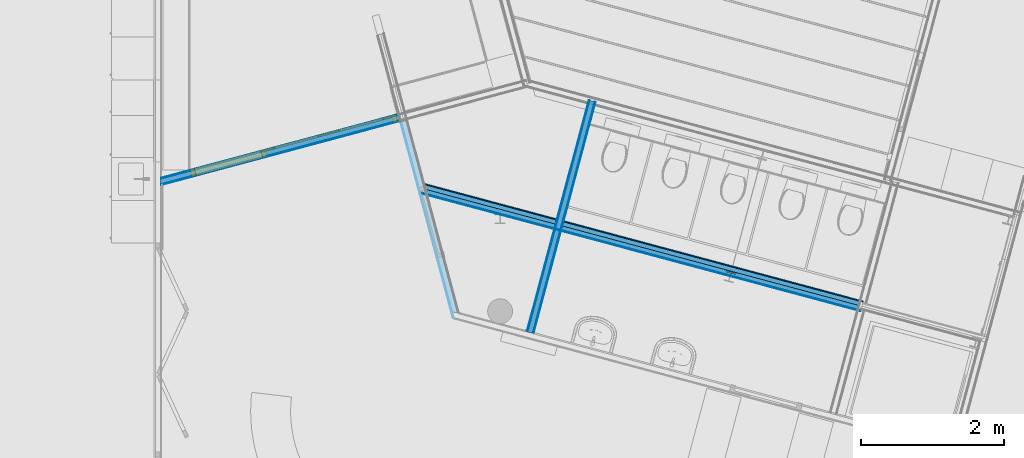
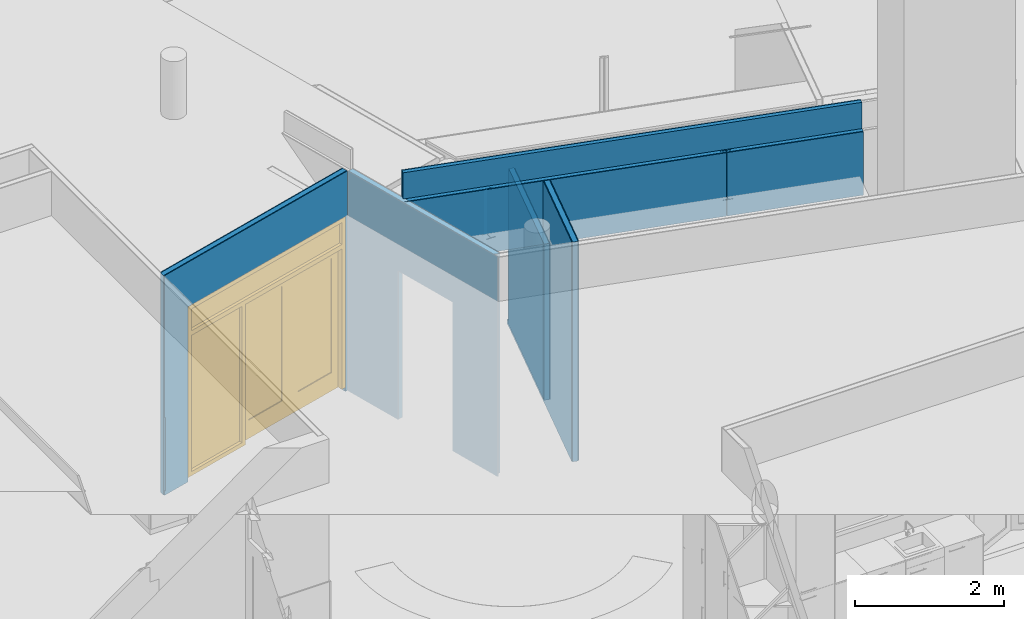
# One storey, part 53 of 167: 12 building element parts, 1 door, 2 openings, 5 elements without a shape of their own, plus 2 elements that do not belong to this part.
"""IFC2X3 building model written with IfcOpenShell, lengths in millimetres."""

from ifc_helpers import new_model, entity, si_unit, converted_unit, derived_unit, money_unit, direction, frame, origin_with_axes, place, context, subcontext, project, spatial, open_shell, faceted_brep, surface_model, material, type_object, element, fill, aggregate, save


model = new_model("IFC2X3")

# Units and contexts
model_context = context("Model", 3, precision=0.01, world=origin_with_axes(), true_north=direction((0.0, 1.0)))
plan_context = context("Plan", 3, precision=0.01, world=origin_with_axes(), true_north=direction((0.0, 1.0)))
body_context = subcontext(model_context, "Body", "Model", "MODEL_VIEW")
ifc_project = project(units=[si_unit("LENGTHUNIT", "METRE", prefix="MILLI"), si_unit("AREAUNIT", "SQUARE_METRE"), si_unit("VOLUMEUNIT", "CUBIC_METRE"), converted_unit("PLANEANGLEUNIT", "DEGREE", entity("IfcPlaneAngleMeasure", 0.0174532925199), si_unit("PLANEANGLEUNIT", "RADIAN"), dimensions=[0, 0, 0, 0, 0, 0, 0]), si_unit("SOLIDANGLEUNIT", "STERADIAN"), money_unit("EUR"), converted_unit("TIMEUNIT", "Year", entity("IfcTimeMeasure", 31556926.0), si_unit("TIMEUNIT", "SECOND"), dimensions=[0, 0, 1, 0, 0, 0, 0]), si_unit("MASSUNIT", "GRAM", prefix="KILO"), si_unit("THERMODYNAMICTEMPERATUREUNIT", "DEGREE_CELSIUS"), si_unit("LUMINOUSINTENSITYUNIT", "LUMEN"), si_unit("ENERGYUNIT", "JOULE", prefix="MEGA"), derived_unit("THERMALCONDUCTANCEUNIT", [(si_unit("POWERUNIT", "WATT"), 1), (si_unit("LENGTHUNIT", "METRE"), -1), (si_unit("THERMODYNAMICTEMPERATUREUNIT", "KELVIN"), -1)]), derived_unit("SPECIFICHEATCAPACITYUNIT", [(si_unit("ENERGYUNIT", "JOULE"), 1), (si_unit("MASSUNIT", "GRAM", prefix="KILO"), -1), (si_unit("THERMODYNAMICTEMPERATUREUNIT", "KELVIN"), -1)]), derived_unit("MASSDENSITYUNIT", [(si_unit("MASSUNIT", "GRAM", prefix="KILO"), 1), (si_unit("VOLUMEUNIT", "CUBIC_METRE"), -1)])], contexts=[model_context, plan_context])

# Site, building, storey
site_placement = place(None, origin_with_axes())
site = spatial("IfcSite", under=ifc_project, at=site_placement, Name="Site", CompositionType="ELEMENT")
building_placement = place(site_placement, origin_with_axes())
building = spatial("IfcBuilding", under=site, at=building_placement, Name="Naam gebouw", CompositionType="ELEMENT")
storey_placement = place(building_placement, origin_with_axes())
storey = spatial("IfcBuildingStorey", under=building, at=storey_placement, Name="Begane grond", CompositionType="ELEMENT", Elevation=0.0)

# Door
door_style = type_object("IfcDoorStyle", Name="D2 bl zl1 24", ConstructionType="NOTDEFINED", OperationType="USERDEFINED", ParameterTakesPrecedence=False, Sizeable=False)
wall_5_placement = place(storey_placement, frame((12987.0474245, 16028.7584647, -100.0), z_axis=(0.0, 0.0, 1.0), x_axis=(-0.965925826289, -0.258819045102, 0.0)))
opening_2_placement = place(wall_5_placement, frame((1531.50980435, 0.0, 100.0), z_axis=(0.0, 0.0, 1.0), x_axis=(1.0, 0.0, 0.0)))
door_placement = place(opening_2_placement, frame((1497.56076019, 0.0, 0.0), z_axis=(0.0, 0.0, 1.0), x_axis=(-1.0, 0.0, 0.0)))
door = element("IfcDoor", 1, at=door_placement, inside=storey, type_object=door_style, Name="32_Deur_Hi-19", ObjectType="DOOR", OverallHeight=2800.0, OverallWidth=2995.12, context=body_context, shape_type="SurfaceModel", body=[
    faceted_brep([(0.0, 64.0, 0.0), (67.0, 64.0, 0.0), (67.0, -50.0, 0.0), (0.0, -50.0, 0.0), (0.0, 64.0, 2733.0), (67.0, 64.0, 2733.0), (67.0, 64.0, 2375.0), (67.0, 64.0, 2300.0), (67.0, 64.0, 67.0), (67.0, -50.0, 67.0), (67.0, -50.0, 2300.0), (67.0, -50.0, 2375.0), (67.0, -50.0, 2733.0), (0.0, -50.0, 2733.0)], [[[0, 1, 2, 3]], [[0, 4, 5, 6, 7, 8, 1]], [[1, 8, 9, 2]], [[3, 2, 9, 10, 11, 12, 13]], [[4, 0, 3, 13]], [[5, 4, 13, 12]], [[6, 5, 12, 11]], [[7, 6, 11, 10]], [[8, 7, 10, 9]]]),
    faceted_brep([(1097.12152037, 24.0, 0.0), (1097.12152037, 24.0, 2300.0), (1097.12152037, -50.0, 2300.0), (1097.12152037, -50.0, 0.0), (1072.12152037, 24.0, 2300.0), (1072.12152037, 24.0, 0.0), (1072.12152037, 64.0, 2300.0), (1030.12152037, 64.0, 2300.0), (1030.12152037, -50.0, 2300.0), (1030.12152037, -50.0, 0.0), (1030.12152037, -50.0, 67.0), (1030.12152037, 64.0, 0.0), (1072.12152037, 64.0, 0.0), (1030.12152037, 64.0, 67.0)], [[[0, 1, 2, 3]], [[4, 1, 0, 5]], [[4, 6, 7, 8, 2, 1]], [[9, 3, 2, 8, 10]], [[5, 0, 3, 9, 11, 12]], [[6, 4, 5, 12]], [[6, 12, 11, 13, 7]], [[13, 10, 8, 7]], [[11, 9, 10, 13]]]),
    faceted_brep([(67.0, 64.0, 67.0), (67.0, 64.0, 0.0), (67.0, -50.0, 0.0), (67.0, -50.0, 67.0), (1030.12152037, 64.0, 67.0), (1030.12152037, 64.0, 0.0), (1030.12152037, -50.0, 0.0), (1030.12152037, -50.0, 67.0)], [[[0, 1, 2, 3]], [[0, 4, 5, 1]], [[1, 5, 6, 2]], [[3, 2, 6, 7]], [[4, 0, 3, 7]], [[5, 4, 7, 6]]]),
    faceted_brep([(2953.12152037, 64.0, 2325.0), (2928.12152037, 64.0, 2325.0), (2928.12152037, 64.0, 2375.0), (2928.12152037, 64.0, 2733.0), (2995.12152037, 64.0, 2733.0), (2995.12152037, 64.0, 0.0), (2953.12152037, 64.0, 0.0), (2953.12152037, 24.0, 2325.0), (2928.12152037, 24.0, 2325.0), (2928.12152037, 24.0, 0.0), (2928.12152037, -50.0, 0.0), (2928.12152037, -50.0, 2300.0), (2928.12152037, -50.0, 2375.0), (2928.12152037, -50.0, 2733.0), (2995.12152037, -50.0, 2733.0), (2995.12152037, -50.0, 0.0), (2953.12152037, 24.0, 0.0)], [[[0, 1, 2, 3, 4, 5, 6]], [[1, 0, 7, 8]], [[8, 9, 10, 11, 12, 2, 1]], [[2, 12, 13, 3]], [[3, 13, 14, 4]], [[4, 14, 15, 5]], [[16, 6, 5, 15, 10, 9]], [[0, 6, 16, 7]], [[16, 9, 8, 7]], [[12, 11, 10, 15, 14, 13]]]),
    faceted_brep([(0.0, 64.0, 2800.0), (0.0, 64.0, 2733.0), (0.0, -50.0, 2733.0), (0.0, -50.0, 2800.0), (2995.12152037, 64.0, 2800.0), (2995.12152037, 64.0, 2733.0), (2928.12152037, 64.0, 2733.0), (67.0, 64.0, 2733.0), (67.0, -50.0, 2733.0), (2928.12152037, -50.0, 2733.0), (2995.12152037, -50.0, 2733.0), (2995.12152037, -50.0, 2800.0)], [[[0, 1, 2, 3]], [[0, 4, 5, 6, 7, 1]], [[1, 7, 8, 2]], [[3, 2, 8, 9, 10, 11]], [[4, 0, 3, 11]], [[5, 4, 11, 10]], [[6, 5, 10, 9]], [[7, 6, 9, 8]]]),
    faceted_brep([(2928.12152037, 24.0, 2325.0), (2928.12152037, 64.0, 2325.0), (2928.12152037, 64.0, 2375.0), (2928.12152037, -50.0, 2375.0), (2928.12152037, -50.0, 2300.0), (2928.12152037, 24.0, 2300.0), (1072.12152037, 24.0, 2325.0), (1072.12152037, 64.0, 2325.0), (1072.12152037, 64.0, 2300.0), (1030.12152037, 64.0, 2300.0), (67.0, 64.0, 2300.0), (67.0, 64.0, 2375.0), (67.0, -50.0, 2375.0), (1097.12152037, -50.0, 2300.0), (67.0, -50.0, 2300.0), (1030.12152037, -50.0, 2300.0), (1097.12152037, 24.0, 2300.0), (1072.12152037, 24.0, 2300.0)], [[[0, 1, 2, 3, 4, 5]], [[1, 0, 6, 7]], [[7, 8, 9, 10, 11, 2, 1]], [[11, 12, 3, 2]], [[13, 4, 3, 12, 14, 15]], [[16, 5, 4, 13]], [[0, 5, 16, 17, 6]], [[8, 7, 6, 17]], [[17, 16, 13, 15, 9, 8]], [[9, 15, 14, 10]], [[10, 14, 12, 11]]]),
    faceted_brep([(2953.12152037, 64.0, 300.0), (2953.12152037, 24.0, 300.0), (2803.12152037, 24.0, 300.0), (2803.12152037, 64.0, 300.0), (2953.12152037, 64.0, 2175.0), (2953.12152037, 24.0, 2175.0), (2803.12152037, 24.0, 2175.0), (2803.12152037, 64.0, 2175.0)], [[[0, 1, 2, 3]], [[4, 5, 1, 0]], [[1, 5, 6, 2]], [[3, 2, 6, 7]], [[0, 3, 7, 4]], [[7, 6, 5, 4]]]),
    faceted_brep([(2012.62152037, 64.0, 300.0), (2012.62152037, 24.0, 300.0), (2012.62152037, 24.0, 2175.0), (2012.62152037, 64.0, 2175.0), (2162.62152037, 64.0, 300.0), (2162.62152037, 24.0, 300.0), (2162.62152037, 24.0, 2175.0), (2162.62152037, 64.0, 2175.0)], [[[0, 1, 2, 3]], [[4, 5, 1, 0]], [[1, 5, 6, 2]], [[3, 2, 6, 7]], [[0, 3, 7, 4]], [[7, 6, 5, 4]]]),
    faceted_brep([(2953.12152037, 64.0, 0.0), (2953.12152037, 24.0, 0.0), (2012.62152037, 24.0, 0.0), (2012.62152037, 64.0, 0.0), (2953.12152037, 64.0, 300.0), (2953.12152037, 24.0, 300.0), (2803.12152037, 24.0, 300.0), (2162.62152037, 24.0, 300.0), (2012.62152037, 24.0, 300.0), (2012.62152037, 64.0, 300.0), (2162.62152037, 64.0, 300.0), (2803.12152037, 64.0, 300.0)], [[[0, 1, 2, 3]], [[4, 5, 1, 0]], [[1, 5, 6, 7, 8, 2]], [[3, 2, 8, 9]], [[0, 3, 9, 10, 11, 4]], [[11, 6, 5, 4]], [[10, 7, 6, 11]], [[9, 8, 7, 10]]]),
    faceted_brep([(2953.12152037, 64.0, 2325.0), (2953.12152037, 24.0, 2325.0), (2953.12152037, 24.0, 2175.0), (2953.12152037, 64.0, 2175.0), (2012.62152037, 64.0, 2325.0), (2012.62152037, 24.0, 2325.0), (2012.62152037, 24.0, 2175.0), (2162.62152037, 24.0, 2175.0), (2803.12152037, 24.0, 2175.0), (2803.12152037, 64.0, 2175.0), (2162.62152037, 64.0, 2175.0), (2012.62152037, 64.0, 2175.0)], [[[0, 1, 2, 3]], [[4, 5, 1, 0]], [[1, 5, 6, 7, 8, 2]], [[3, 2, 8, 9]], [[0, 3, 9, 10, 11, 4]], [[11, 6, 5, 4]], [[10, 7, 6, 11]], [[9, 8, 7, 10]]]),
    surface_model("IfcShellBasedSurfaceModel", [(2803.12152037, 50.0, 300.0), (2162.62152037, 50.0, 300.0), (2162.62152037, 50.0, 2175.0), (2803.12152037, 50.0, 2175.0)], [open_shell([[[0, 1, 2, 3]]])]),
    surface_model("IfcShellBasedSurfaceModel", [(2803.12152037, 38.0, 300.0), (2803.12152037, 38.0, 2175.0), (2162.62152037, 38.0, 2175.0), (2162.62152037, 38.0, 300.0)], [open_shell([[[0, 1, 2, 3]]])]),
    faceted_brep([(1072.12152037, 64.0, 300.0), (1222.12152037, 64.0, 300.0), (1222.12152037, 24.0, 300.0), (1072.12152037, 24.0, 300.0), (1072.12152037, 64.0, 2175.0), (1222.12152037, 64.0, 2175.0), (1222.12152037, 24.0, 2175.0), (1072.12152037, 24.0, 2175.0)], [[[0, 1, 2, 3]], [[0, 4, 5, 1]], [[1, 5, 6, 2]], [[3, 2, 6, 7]], [[4, 0, 3, 7]], [[5, 4, 7, 6]]]),
    faceted_brep([(2012.62152037, 64.0, 300.0), (2012.62152037, 64.0, 2175.0), (2012.62152037, 24.0, 2175.0), (2012.62152037, 24.0, 300.0), (1862.62152037, 64.0, 300.0), (1862.62152037, 64.0, 2175.0), (1862.62152037, 24.0, 2175.0), (1862.62152037, 24.0, 300.0)], [[[0, 1, 2, 3]], [[0, 4, 5, 1]], [[1, 5, 6, 2]], [[3, 2, 6, 7]], [[4, 0, 3, 7]], [[5, 4, 7, 6]]]),
    faceted_brep([(1072.12152037, 64.0, 0.0), (2012.62152037, 64.0, 0.0), (2012.62152037, 24.0, 0.0), (1072.12152037, 24.0, 0.0), (1072.12152037, 64.0, 300.0), (1222.12152037, 64.0, 300.0), (1862.62152037, 64.0, 300.0), (2012.62152037, 64.0, 300.0), (2012.62152037, 24.0, 300.0), (1862.62152037, 24.0, 300.0), (1222.12152037, 24.0, 300.0), (1072.12152037, 24.0, 300.0)], [[[0, 1, 2, 3]], [[0, 4, 5, 6, 7, 1]], [[1, 7, 8, 2]], [[3, 2, 8, 9, 10, 11]], [[4, 0, 3, 11]], [[5, 4, 11, 10]], [[6, 5, 10, 9]], [[7, 6, 9, 8]]]),
    faceted_brep([(1072.12152037, 64.0, 2325.0), (1072.12152037, 64.0, 2175.0), (1072.12152037, 24.0, 2175.0), (1072.12152037, 24.0, 2325.0), (2012.62152037, 64.0, 2325.0), (2012.62152037, 64.0, 2175.0), (1862.62152037, 64.0, 2175.0), (1222.12152037, 64.0, 2175.0), (1222.12152037, 24.0, 2175.0), (1862.62152037, 24.0, 2175.0), (2012.62152037, 24.0, 2175.0), (2012.62152037, 24.0, 2325.0)], [[[0, 1, 2, 3]], [[0, 4, 5, 6, 7, 1]], [[1, 7, 8, 2]], [[3, 2, 8, 9, 10, 11]], [[4, 0, 3, 11]], [[5, 4, 11, 10]], [[6, 5, 10, 9]], [[7, 6, 9, 8]]]),
    surface_model("IfcShellBasedSurfaceModel", [(1222.12152037, 50.0, 300.0), (1222.12152037, 50.0, 2175.0), (1862.62152037, 50.0, 2175.0), (1862.62152037, 50.0, 300.0)], [open_shell([[[0, 1, 2, 3]]])]),
    surface_model("IfcShellBasedSurfaceModel", [(1222.12152037, 38.0, 300.0), (1862.62152037, 38.0, 300.0), (1862.62152037, 38.0, 2175.0), (1222.12152037, 38.0, 2175.0)], [open_shell([[[0, 1, 2, 3]]])]),
    surface_model("IfcShellBasedSurfaceModel", [(67.0, 10.0, 2375.0), (67.0, 10.0, 2733.0), (2928.12152037, 10.0, 2733.0), (2928.12152037, 10.0, 2375.0)], [open_shell([[[0, 1, 2, 3]]])]),
    surface_model("IfcShellBasedSurfaceModel", [(67.0, -2.0, 2375.0), (2928.12152037, -2.0, 2375.0), (2928.12152037, -2.0, 2733.0), (67.0, -2.0, 2733.0)], [open_shell([[[0, 1, 2, 3]]])]),
    surface_model("IfcShellBasedSurfaceModel", [(67.0, 10.0, 67.0), (67.0, 10.0, 2300.0), (1030.12152037, 10.0, 2300.0), (1030.12152037, 10.0, 67.0)], [open_shell([[[0, 1, 2, 3]]])]),
    surface_model("IfcShellBasedSurfaceModel", [(67.0, -2.0, 67.0), (1030.12152037, -2.0, 67.0), (1030.12152037, -2.0, 2300.0), (67.0, -2.0, 2300.0)], [open_shell([[[0, 1, 2, 3]]])]),
])

# Wall, building element parts
wall_type_1 = type_object("IfcWallType", Name="_TenW_22_Metalstud 150 enkel gipsvezelplaat 150", PredefinedType="NOTDEFINED")
wall_1_placement = place(storey_placement, frame((13317.5373409, 15034.4159025, 2490.0), z_axis=(0.0, 0.0, 1.0), x_axis=(0.965925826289, -0.258819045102, 0.0)))
wall_1 = element("IfcWall", 2, at=wall_1_placement, inside=storey, type_object=wall_type_1, Name="22_Wand_Wand-x")
ifc_material_1 = material(Name="Gipsplaat")
building_element_part_1_placement = place(wall_1_placement, origin_with_axes())
building_element_part_1 = element("IfcBuildingElementPart", 3, at=building_element_part_1_placement, material=ifc_material_1, Name="Gipsplaat", context=body_context, shape_type="Brep", body=[
    faceted_brep([(1103.39862717, 75.0, 0.0), (1103.39862717, 75.0, 71.5), (1173.0209503, 75.0, 71.5), (1173.0209503, 75.0, 80.0), (1028.08228504, 75.0, 80.0), (1028.08228504, 75.0, 71.5), (1097.70460817, 75.0, 71.5), (1097.70460817, 75.0, 0.0), (0.0, 75.0, 0.0), (0.0, 75.0, 140.0), (6376.11574358, 75.0, 140.0), (6376.11574358, 75.0, 0.0), (4480.54357807, 75.0, 0.0), (4480.54357807, 75.0, 71.5), (4547.79357807, 75.0, 71.5), (4547.79357807, 75.0, 80.0), (4407.79357807, 75.0, 80.0), (4407.79357807, 75.0, 71.5), (4475.04357807, 75.0, 71.5), (4475.04357807, 75.0, 0.0), (1106.74799207, 62.5, 71.5), (1106.74799207, 62.5, 0.0), (1176.3703152, 62.5, 71.5), (1176.3703152, 62.5, 80.0), (1031.43164995, 62.5, 80.0), (1031.43164995, 62.5, 71.5), (1101.05397308, 62.5, 71.5), (1101.05397308, 62.5, 0.0), (0.0, 62.5, 0.0), (0.0, 75.0, 390.0), (0.0, 74.8341501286, 390.0), (0.0, 74.8341501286, 140.0), (0.0, 62.5, 1470.0), (0.0, 75.0, 1470.0), (7.11986569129, 62.5, 140.0), (3683.47465741, 62.5, 140.0), (6376.11574358, 70.0916395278, 140.0), (6376.11574358, 70.0916395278, 390.0), (6376.11574358, 75.0, 390.0), (6376.11574358, 75.0, 1470.0), (6376.11574358, 62.5, 1470.0), (6376.11574358, 62.5, 0.0), (4480.54357807, 62.5, 0.0), (4480.54357807, 62.5, 71.5), (4547.79357807, 62.5, 71.5), (4547.79357807, 62.5, 80.0), (4407.79357807, 62.5, 80.0), (4407.79357807, 62.5, 71.5), (4475.04357807, 62.5, 71.5), (4475.04357807, 62.5, 0.0), (3683.47465741, 62.5, 390.0), (7.11986569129, 62.5, 390.0)], [[[0, 1, 2, 3, 4, 5, 6, 7, 8, 9, 10, 11, 12, 13, 14, 15, 16, 17, 18, 19]], [[20, 1, 0, 21]], [[22, 2, 1, 20]], [[23, 3, 2, 22]], [[24, 4, 3, 23]], [[25, 5, 4, 24]], [[26, 6, 5, 25]], [[27, 7, 6, 26]], [[8, 7, 27, 28]], [[29, 30, 31, 9, 8, 28, 32, 33]], [[34, 35, 36, 10, 9, 31]], [[11, 10, 36, 37, 38, 39, 40, 41]], [[41, 42, 12, 11]], [[43, 13, 12, 42]], [[44, 14, 13, 43]], [[45, 15, 14, 44]], [[46, 16, 15, 45]], [[47, 17, 16, 46]], [[48, 18, 17, 47]], [[49, 19, 18, 48]], [[49, 21, 0, 19]], [[22, 20, 21, 49, 48, 47, 46, 45, 44, 43, 42, 41, 40, 32, 28, 27, 26, 25, 24, 23], [50, 35, 34, 51]], [[51, 30, 29, 38, 37, 50]], [[31, 30, 51, 34]], [[39, 33, 32, 40]], [[33, 39, 38, 29]], [[35, 50, 37, 36]]]),
])
ifc_material_2 = material(Name="Isolatie - Glaswol zacht")
building_element_part_2_placement = place(wall_1_placement, origin_with_axes())
building_element_part_2 = element("IfcBuildingElementPart", 4, at=building_element_part_2_placement, material=ifc_material_2, Name="Isolatie - Glaswol zacht", context=body_context, shape_type="Brep", body=[
    faceted_brep([(1208.02886021, -55.6512984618, 1040.0), (1182.46915811, -62.5, 1040.0), (4475.04357807, -62.5, 1040.0), (4475.04357807, -23.5000000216, 1040.0), (4407.79357807, -23.5000000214, 1040.0), (4407.79357807, -15.0000000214, 1040.0), (4547.79357807, -15.0000000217, 1040.0), (4547.79357807, -23.5000000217, 1040.0), (4480.54357807, -23.5000000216, 1040.0), (4480.54357807, -62.5, 1040.0), (6376.11574358, -62.5, 1040.0), (6376.11574358, 6.53699316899e-10, 1040.0), (0.0, 3.38928884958e-09, 1040.0), (0.0, -62.5, 1040.0), (1149.62768001, -62.5, 1040.0), (1205.82889833, -47.4409289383, 1040.0), (1208.02886021, -55.6512984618, 0.0), (1182.46915811, -62.5, 0.0), (4475.04357807, -62.5, 0.0), (4475.04357807, -23.5000000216, 0.0), (4407.79357807, -23.5000000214, 0.0), (4407.79357807, -15.0000000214, 80.0), (4407.79357807, -15.0000000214, 0.0), (4407.79357807, -15.0000000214, 71.5), (4407.79357807, 62.5, 71.5), (4407.79357807, 62.5, 80.0), (4547.79357807, -15.0000000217, 80.0), (4547.79357807, -15.0000000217, 71.5), (4547.79357807, -15.0000000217, 0.0), (4547.79357807, -23.5000000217, 0.0), (4547.79357807, 62.5, 80.0), (4547.79357807, 62.5, 71.5), (4480.54357807, -23.5000000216, 0.0), (4480.54357807, -62.5, 0.0), (6376.11574358, -62.5, 0.0), (6376.11574358, 62.5, 1470.0), (6376.11574358, 6.53699316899e-10, 1470.0), (6376.11574358, 62.5, 0.0), (0.0, 3.38928884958e-09, 1470.0), (0.0, -62.5, 0.0), (0.0, 62.5, 1470.0), (0.0, 62.5, 0.0), (1149.62768001, -62.5, 80.0), (1134.54762213, -62.5, 0.0), (1134.54762213, -62.5, 71.5), (1064.925299, -62.5, 71.5), (1064.925299, -62.5, 80.0), (1205.82889833, -47.4409289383, 80.0), (1205.82889833, -47.4409289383, 71.5), (1205.82889833, -47.4409289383, 0.0), (1176.3703152, 62.5, 80.0), (1176.3703152, 62.5, 71.5), (1149.62768001, -62.5, 0.0), (1140.24164113, -62.5, 0.0), (1106.74799207, 62.5, 0.0), (4475.04357807, 62.5, 0.0), (4475.04357807, -15.0000000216, 0.0), (4475.04357807, -15.0000000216, 71.5), (4475.04357807, 62.5, 71.5), (1106.74799207, 62.5, 71.5), (1031.43164995, 62.5, 80.0), (1031.43164995, 62.5, 71.5), (1101.05397308, 62.5, 71.5), (1101.05397308, 62.5, 0.0), (4480.54357807, 62.5, 0.0), (4480.54357807, 62.5, 71.5), (3683.47465741, 62.5, 390.0), (7.11986569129, 62.5, 390.0), (7.11986569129, 62.5, 140.0), (3683.47465741, 62.5, 140.0), (4480.54357807, -15.0000000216, 71.5), (4480.54357807, -15.0000000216, 0.0), (1149.62768001, -62.5, 71.5), (1140.24164113, -62.5, 71.5), (13.0933930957, 52.1517171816, 390.0), (13.0933930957, 52.1517171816, 140.0)], [[[0, 1, 2, 3, 4, 5, 6, 7, 8, 9, 10, 11, 12, 13, 14, 15]], [[1, 0, 16, 17]], [[1, 17, 18, 2]], [[3, 2, 18, 19]], [[4, 3, 19, 20]], [[21, 5, 4, 20, 22, 23, 24, 25]], [[6, 5, 21, 26]], [[27, 28, 29, 7, 6, 26, 30, 31]], [[8, 7, 29, 32]], [[9, 8, 32, 33]], [[9, 33, 34, 10]], [[35, 36, 11, 10, 34, 37]], [[11, 36, 38, 12]], [[39, 13, 12, 38, 40, 41]], [[42, 14, 13, 39, 43, 44, 45, 46]], [[15, 14, 42, 47]], [[48, 49, 16, 0, 15, 47, 50, 51]], [[49, 52, 53, 54, 55, 56, 22, 20, 19, 18, 17, 16]], [[56, 57, 23, 22]], [[23, 57, 58, 24]], [[54, 59, 51, 50, 60, 61, 62, 63, 41, 40, 35, 37, 64, 65, 31, 30, 25, 24, 58, 55], [66, 67, 68, 69]], [[26, 21, 25, 30]], [[27, 70, 71, 28]], [[28, 71, 64, 37, 34, 33, 32, 29]], [[70, 27, 31, 65]], [[35, 40, 38, 36]], [[41, 63, 43, 39]], [[43, 63, 62, 44]], [[44, 62, 61, 45]], [[45, 61, 60, 46]], [[47, 42, 46, 60, 50]], [[48, 72, 52, 49]], [[72, 48, 51, 59, 73]], [[52, 72, 73, 53]], [[73, 59, 54, 53]], [[57, 56, 55, 58]], [[71, 70, 65, 64]], [[66, 74, 67]], [[74, 75, 68, 67]], [[68, 75, 69]], [[75, 74, 66, 69]]]),
])
building_element_part_3_placement = place(wall_1_placement, origin_with_axes())
building_element_part_3 = element("IfcBuildingElementPart", 5, at=building_element_part_3_placement, material=ifc_material_1, Name="Gipsplaat", context=body_context, shape_type="Brep", body=[
    faceted_brep([(1137.75775635, -74.480383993, 1040.0), (1135.81852301, -75.0, 1040.0), (1137.89698704, -75.0, 1040.0), (1137.75775635, -74.480383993, 0.0), (1135.81852301, -75.0, 0.0), (1137.89698704, -75.0, 0.0)], [[[0, 1, 2]], [[1, 0, 3, 4]], [[5, 2, 1, 4]], [[0, 2, 5, 3]], [[3, 5, 4]]]),
    faceted_brep([(4480.54357807, -62.5, 0.0), (4480.54357807, -62.5, 1040.0), (6376.11574358, -62.5, 1040.0), (6376.11574358, -62.5, 0.0), (4480.54357807, -75.0, 1040.0), (4480.54357807, -75.0, 0.0), (6376.11574358, -75.0, 1040.0), (6376.11574358, -75.0, 0.0)], [[[0, 1, 2, 3]], [[4, 1, 0, 5]], [[1, 4, 6, 2]], [[7, 3, 2, 6]], [[5, 0, 3, 7]], [[4, 5, 7, 6]]]),
    faceted_brep([(1102.97704492, -75.0, 71.5), (1135.55779447, -66.2700144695, 71.5), (1134.54762213, -62.5, 71.5), (1064.925299, -62.5, 71.5), (1068.27466391, -75.0, 71.5), (1135.55779447, -66.2700144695, 0.0), (1102.97704492, -75.0, 0.0), (1134.54762213, -62.5, 0.0), (1149.62768001, -62.5, 1040.0), (1149.62768001, -62.5, 80.0), (1064.925299, -62.5, 80.0), (0.0, -62.5, 0.0), (0.0, -62.5, 1040.0), (1068.27466391, -75.0, 80.0), (1102.97704492, -75.0, 80.0), (1102.97704492, -75.0, 1040.0), (0.0, -75.0, 1040.0), (0.0, -75.0, 0.0)], [[[0, 1, 2, 3, 4]], [[5, 1, 0, 6]], [[1, 5, 7, 2]], [[8, 9, 10, 3, 2, 7, 11, 12]], [[4, 3, 10, 13]], [[14, 15, 16, 17, 6, 0, 4, 13]], [[5, 6, 17, 11, 7]], [[9, 8, 15, 14]], [[9, 14, 13, 10]], [[11, 17, 16, 12]], [[15, 8, 12, 16]]]),
    faceted_brep([(1140.87038651, -64.8465097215, 71.5), (1149.62768001, -62.5, 71.5), (1140.24164113, -62.5, 71.5), (1149.62768001, -62.5, 0.0), (1140.87038651, -64.8465097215, 0.0), (1140.24164113, -62.5, 0.0)], [[[0, 1, 2]], [[3, 1, 0, 4]], [[1, 3, 5, 2]], [[4, 0, 2, 5]], [[3, 4, 5]]]),
    faceted_brep([(1182.46915811, -62.5, 0.0), (1182.46915811, -62.5, 1040.0), (4475.04357807, -62.5, 1040.0), (4475.04357807, -62.5, 0.0), (1143.07034839, -73.0568792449, 1040.0), (1143.07034839, -73.0568792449, 0.0), (1143.59100603, -75.0, 1040.0), (4475.04357807, -75.0, 1040.0), (4475.04357807, -75.0, 0.0), (1143.59100603, -75.0, 0.0)], [[[0, 1, 2, 3]], [[4, 1, 0, 5]], [[4, 6, 7, 2, 1]], [[3, 2, 7, 8]], [[5, 0, 3, 8, 9]], [[6, 4, 5, 9]], [[6, 9, 8, 7]]]),
])
aggregate(wall_1, [building_element_part_1, building_element_part_2, building_element_part_3])

wall_type_2 = type_object("IfcWallType", Name="_TenW_22_Metalstud 100 enkel gipsvezelplaat 100", PredefinedType="NOTDEFINED")
wall_2_placement = place(storey_placement, frame((15692.1975133, 16261.6433867, -100.0), z_axis=(0.0, 0.0, 1.0), x_axis=(-0.258819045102, -0.965925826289, 0.0)))
wall_2 = element("IfcWall", 6, at=wall_2_placement, inside=storey, type_object=wall_type_2, Name="22_Wand_Wand-x")
ifc_material_3 = material(Name="Gipsplaat watervast")
building_element_part_4_placement = place(wall_2_placement, origin_with_axes())
building_element_part_4 = element("IfcBuildingElementPart", 7, at=building_element_part_4_placement, material=ifc_material_3, Name="Gipsplaat watervast", context=body_context, shape_type="Brep", body=[
    faceted_brep([(1875.018, 50.0, 30.0), (0.0, 50.0, 30.0), (0.0, 50.0, 100.0), (50.0, 50.0, 100.0), (50.0, 50.0, 2590.0), (1875.018, 50.0, 2590.0), (0.0, 37.5, 30.0), (1875.018, 37.5, 30.0), (0.0, 37.5, 100.0), (50.0, 37.5, 100.0), (50.0, 37.5, 2590.0), (1875.018, 37.5, 2590.0)], [[[0, 1, 2, 3, 4, 5]], [[6, 1, 0, 7]], [[1, 6, 8, 2]], [[2, 8, 9, 3]], [[9, 10, 4, 3]], [[5, 4, 10, 11]], [[7, 0, 5, 11]], [[6, 7, 11, 10, 9, 8]]]),
])
ifc_material_4 = material(Name="Isolatie - Steenwol zacht")
building_element_part_5_placement = place(wall_2_placement, origin_with_axes())
building_element_part_5 = element("IfcBuildingElementPart", 8, at=building_element_part_5_placement, material=ifc_material_4, Name="Isolatie - Steenwol zacht", context=body_context, shape_type="Brep", body=[
    faceted_brep([(1875.018, 37.5, 30.0), (0.0, 37.5, 30.0), (0.0, 37.5, 100.0), (37.5, 37.5, 100.0), (37.5, 37.5, 2590.0), (1875.018, 37.5, 2590.0), (0.0, -37.5, 30.0), (1875.018, -37.5, 30.0), (0.0, -37.5, 100.0), (37.5, -37.5, 100.0), (37.5, -37.5, 2590.0), (1875.018, -37.5, 2590.0)], [[[0, 1, 2, 3, 4, 5]], [[6, 1, 0, 7]], [[1, 6, 8, 2]], [[9, 3, 2, 8]], [[9, 10, 4, 3]], [[5, 4, 10, 11]], [[7, 0, 5, 11]], [[6, 7, 11, 10, 9, 8]]]),
])
building_element_part_6_placement = place(wall_2_placement, origin_with_axes())
building_element_part_6 = element("IfcBuildingElementPart", 9, at=building_element_part_6_placement, material=ifc_material_3, Name="Gipsplaat watervast", context=body_context, shape_type="Brep", body=[
    faceted_brep([(1875.018, -37.5, 30.0), (0.0, -37.5, 30.0), (0.0, -37.5, 100.0), (50.0, -37.5, 100.0), (50.0, -37.5, 2590.0), (1875.018, -37.5, 2590.0), (0.0, -50.0, 30.0), (1875.018, -50.0, 30.0), (0.0, -50.0, 100.0), (50.0, -50.0, 100.0), (50.0, -50.0, 2590.0), (1875.018, -50.0, 2590.0)], [[[0, 1, 2, 3, 4, 5]], [[6, 1, 0, 7]], [[1, 6, 8, 2]], [[2, 8, 9, 3]], [[9, 10, 4, 3]], [[5, 4, 10, 11]], [[7, 0, 5, 11]], [[6, 7, 11, 10, 9, 8]]]),
])
aggregate(wall_2, [building_element_part_4, building_element_part_5, building_element_part_6])

wall_3_placement = place(storey_placement, frame((15206.907145, 14450.5150758, -100.0), z_axis=(0.0, 0.0, 1.0), x_axis=(-0.258819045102, -0.965925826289, 0.0)))
wall_3 = element("IfcWall", 10, at=wall_3_placement, inside=storey, type_object=wall_type_2, Name="22_Wand_Wand-x")
building_element_part_7_placement = place(wall_3_placement, origin_with_axes())
building_element_part_7 = element("IfcBuildingElementPart", 11, at=building_element_part_7_placement, material=ifc_material_3, Name="Gipsplaat watervast", context=body_context, shape_type="Brep", body=[
    faceted_brep([(0.0, 37.5, 3630.0), (0.0, 50.0, 3630.0), (0.0, 50.0, 30.0), (0.0, 37.5, 30.0), (1474.97655544, 50.0, 3630.0), (1474.97655544, 37.5, 3630.0), (1474.97655544, 50.0, 30.0), (1474.97655544, 37.5, 30.0)], [[[0, 1, 2, 3]], [[4, 1, 0, 5]], [[1, 4, 6, 2]], [[3, 2, 6, 7]], [[5, 0, 3, 7]], [[4, 5, 7, 6]]]),
])
building_element_part_8_placement = place(wall_3_placement, origin_with_axes())
building_element_part_8 = element("IfcBuildingElementPart", 12, at=building_element_part_8_placement, material=ifc_material_4, Name="Isolatie - Steenwol zacht", context=body_context, shape_type="Brep", body=[
    faceted_brep([(0.0, -37.5, 3630.0), (0.0, 37.5, 3630.0), (0.0, 37.5, 30.0), (0.0, -37.5, 30.0), (1487.47655544, 37.5, 3630.0), (1487.47655544, -37.5, 3630.0), (1487.47655544, 37.5, 30.0), (1487.47655544, -37.5, 30.0)], [[[0, 1, 2, 3]], [[4, 1, 0, 5]], [[1, 4, 6, 2]], [[3, 2, 6, 7]], [[5, 0, 3, 7]], [[4, 5, 7, 6]]]),
])
building_element_part_9_placement = place(wall_3_placement, origin_with_axes())
building_element_part_9 = element("IfcBuildingElementPart", 13, at=building_element_part_9_placement, material=ifc_material_3, Name="Gipsplaat watervast", context=body_context, shape_type="Brep", body=[
    faceted_brep([(0.0, -50.0, 3630.0), (0.0, -37.5, 3630.0), (0.0, -37.5, 30.0), (0.0, -50.0, 30.0), (1474.97655544, -37.5, 3630.0), (1474.97655544, -50.0, 3630.0), (1474.97655544, -37.5, 30.0), (1474.97655544, -50.0, 30.0)], [[[0, 1, 2, 3]], [[4, 1, 0, 5]], [[1, 4, 6, 2]], [[3, 2, 6, 7]], [[5, 0, 3, 7]], [[4, 5, 7, 6]]]),
])
aggregate(wall_3, [building_element_part_7, building_element_part_8, building_element_part_9])

# Wall, opening, building element parts
wall_4_placement = place(storey_placement, frame((13050.8860643, 15981.2757044, -70.0), z_axis=(0.0, 0.0, 1.0), x_axis=(0.258819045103, -0.965925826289, 0.0)))
wall_4 = element("IfcWall", 14, at=wall_4_placement, inside=storey, type_object=wall_type_2, Name="22_Wand_Wand-x")
opening_1_placement = place(wall_4_placement, frame((1466.61251975, 0.0, 70.0), z_axis=(0.0, 0.0, 1.0), x_axis=(1.0, 0.0, 0.0)))
element("IfcOpeningElement", 15, at=opening_1_placement, cuts=wall_4, Name="_Deur_Hi-01s", context=body_context, shape_type="Brep", body=[
    faceted_brep([(-517.0, 100.0, 2367.0), (-517.0, 100.0, 0.0), (-517.0, -200.0, 0.0), (-517.0, -200.0, 2367.0), (517.0, 100.0, 2367.0), (517.0, 100.0, 0.0), (517.0, -200.0, 0.0), (517.0, -200.0, 2367.0)], [[[0, 1, 2, 3]], [[0, 4, 5, 1]], [[1, 5, 6, 2]], [[3, 2, 6, 7]], [[4, 0, 3, 7]], [[5, 4, 7, 6]]]),
])
building_element_part_10_placement = place(wall_4_placement, origin_with_axes())
building_element_part_10 = element("IfcBuildingElementPart", 16, at=building_element_part_10_placement, material=ifc_material_4, Name="Isolatie - Steenwol zacht", context=body_context, shape_type="Brep", body=[
    faceted_brep([(949.612519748, 37.5, 2437.0), (949.612519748, 37.5, 70.0), (949.612519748, 37.5, 0.0), (0.0, 37.5, 0.0), (0.0, 37.5, 3600.0), (2802.23703894, 37.5, 3600.0), (2802.23703894, 37.5, 0.0), (1983.61251975, 37.5, 0.0), (1983.61251975, 37.5, 70.0), (1983.61251975, 37.5, 2437.0), (949.612519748, -37.5, 2437.0), (949.612519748, -37.5, 70.0), (949.612519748, -37.5, 0.0), (0.0, -37.5, 0.0), (0.0, -37.5, 3600.0), (2758.93576875, -37.5, 3600.0), (2758.93576875, -37.5, 0.0), (1983.61251975, -37.5, 0.0), (1983.61251975, -37.5, 70.0), (1983.61251975, -37.5, 2437.0)], [[[0, 1, 2, 3, 4, 5, 6, 7, 8, 9]], [[1, 0, 10, 11]], [[1, 11, 12, 2]], [[12, 13, 3, 2]], [[3, 13, 14, 4]], [[5, 4, 14, 15]], [[6, 5, 15, 16]], [[7, 6, 16, 17]], [[18, 8, 7, 17]], [[9, 8, 18, 19]], [[0, 9, 19, 10]], [[19, 18, 17, 16, 15, 14, 13, 12, 11, 10]]]),
])
building_element_part_11_placement = place(wall_4_placement, origin_with_axes())
building_element_part_11 = element("IfcBuildingElementPart", 17, at=building_element_part_11_placement, material=ifc_material_3, Name="Gipsplaat watervast", context=body_context, shape_type="Brep", body=[
    faceted_brep([(949.612519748, -37.5, 2437.0), (949.612519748, -37.5, 70.0), (949.612519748, -37.5, 0.0), (0.0, -37.5, 0.0), (0.0, -37.5, 3600.0), (2845.53830913, -37.5, 3600.0), (2845.53830913, -37.5, 0.0), (1983.61251975, -37.5, 0.0), (1983.61251975, -37.5, 70.0), (1983.61251975, -37.5, 2437.0), (949.612519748, -50.0, 2437.0), (949.612519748, -50.0, 70.0), (949.612519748, -50.0, 0.0), (0.0, -50.0, 0.0), (0.0, -50.0, 3600.0), (2838.32143076, -50.0, 3600.0), (2838.32143076, -50.0, 0.0), (1983.61251975, -50.0, 0.0), (1983.61251975, -50.0, 70.0), (1983.61251975, -50.0, 2437.0)], [[[0, 1, 2, 3, 4, 5, 6, 7, 8, 9]], [[1, 0, 10, 11]], [[1, 11, 12, 2]], [[12, 13, 3, 2]], [[3, 13, 14, 4]], [[5, 4, 14, 15]], [[6, 5, 15, 16]], [[7, 6, 16, 17]], [[18, 8, 7, 17]], [[9, 8, 18, 19]], [[0, 9, 19, 10]], [[19, 18, 17, 16, 15, 14, 13, 12, 11, 10]]]),
])
aggregate(wall_4, [building_element_part_10, building_element_part_11])

# Wall, opening
wall_5 = element("IfcWall", 18, at=wall_5_placement, inside=storey, type_object=wall_type_2, Name="22_Wand_Wand-x")
opening_2 = element("IfcOpeningElement", 19, at=opening_2_placement, cuts=wall_5, Name="32_Deur_Hi-19", context=body_context, shape_type="Brep", body=[
    faceted_brep([(-1497.56076019, -100.0, 0.0), (-1497.56076019, -100.0, 2800.0), (-1497.56076019, 200.0, 2800.0), (-1497.56076019, 200.0, 0.0), (1497.56076019, -100.0, 0.0), (1497.56076019, -100.0, 2800.0), (1497.56076019, 200.0, 2800.0), (1497.56076019, 200.0, 0.0)], [[[0, 1, 2, 3]], [[0, 4, 5, 1]], [[1, 5, 6, 2]], [[3, 2, 6, 7]], [[4, 0, 3, 7]], [[5, 4, 7, 6]]]),
])

fill(opening_2, door)

# Building element part
building_element_part_12_placement = place(wall_5_placement, origin_with_axes())
building_element_part_12 = element("IfcBuildingElementPart", 20, at=building_element_part_12_placement, material=ifc_material_3, Name="Gipsplaat watervast", context=body_context, shape_type="Brep", body=[
    faceted_brep([(3029.07056453, 50.0, 100.0), (3029.07056453, 50.0, 2900.0), (33.9490441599, 50.0, 2900.0), (33.9490441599, 50.0, 100.0), (33.9490441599, 50.0, 30.0), (0.0, 50.0, 30.0), (0.0, 50.0, 3630.0), (3468.16317108, 50.0, 3630.0), (3468.16317108, 50.0, 1300.0), (3447.45764747, 50.0, 1300.0), (3447.45764747, 50.0, 100.0), (3468.16317108, 50.0, 100.0), (3468.16317108, 50.0, 30.0), (3029.07056453, 50.0, 30.0), (3029.07056453, 37.5, 100.0), (3029.07056453, 37.5, 2900.0), (33.9490441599, 37.5, 2900.0), (33.9490441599, 37.5, 100.0), (33.9490441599, 37.5, 30.0), (0.0, 37.5, 30.0), (0.0, 37.5, 3630.0), (3464.81380617, 37.5, 3630.0), (3464.81380617, 37.5, 1300.0), (3444.10828256, 37.5, 1300.0), (3444.10828256, 37.5, 100.0), (3464.81380617, 37.5, 100.0), (3464.81380617, 37.5, 30.0), (3029.07056453, 37.5, 30.0)], [[[0, 1, 2, 3, 4, 5, 6, 7, 8, 9, 10, 11, 12, 13]], [[1, 0, 14, 15]], [[2, 1, 15, 16]], [[3, 2, 16, 17]], [[3, 17, 18, 4]], [[18, 19, 5, 4]], [[19, 20, 6, 5]], [[21, 7, 6, 20]], [[22, 8, 7, 21]], [[22, 23, 9, 8]], [[23, 24, 10, 9]], [[24, 25, 11, 10]], [[12, 11, 25, 26]], [[13, 12, 26, 27]], [[14, 0, 13, 27]], [[15, 14, 27, 26, 25, 24, 23, 22, 21, 20, 19, 18, 17, 16]]]),
])

building_element_part_13_placement = place(wall_5_placement, origin_with_axes())
building_element_part_13 = element("IfcBuildingElementPart", 21, at=building_element_part_13_placement, material=ifc_material_4, Name="Isolatie - Steenwol zacht", context=body_context, shape_type="Brep", body=[
    faceted_brep([(3029.07056453, 37.5, 100.0), (3029.07056453, 37.5, 2900.0), (33.9490441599, 37.5, 2900.0), (33.9490441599, 37.5, 100.0), (33.9490441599, 37.5, 30.0), (0.0, 37.5, 30.0), (0.0, 37.5, 3630.0), (3477.75475843, 37.5, 3630.0), (3477.75475843, 37.5, 30.0), (3029.07056453, 37.5, 30.0), (3029.07056453, -37.5, 100.0), (3029.07056453, -37.5, 2900.0), (33.9490441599, -37.5, 2900.0), (33.9490441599, -37.5, 100.0), (33.9490441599, -37.5, 30.0), (0.0, -37.5, 30.0), (0.0, -37.5, 3630.0), (3457.65856899, -37.5, 3630.0), (3457.65856899, -37.5, 30.0), (3029.07056453, -37.5, 30.0)], [[[0, 1, 2, 3, 4, 5, 6, 7, 8, 9]], [[1, 0, 10, 11]], [[2, 1, 11, 12]], [[3, 2, 12, 13]], [[3, 13, 14, 4]], [[14, 15, 5, 4]], [[15, 16, 6, 5]], [[7, 6, 16, 17]], [[8, 7, 17, 18]], [[9, 8, 18, 19]], [[10, 0, 9, 19]], [[11, 10, 19, 18, 17, 16, 15, 14, 13, 12]]]),
])

building_element_part_14_placement = place(wall_5_placement, origin_with_axes())
building_element_part_14 = element("IfcBuildingElementPart", 22, at=building_element_part_14_placement, material=ifc_material_3, Name="Gipsplaat watervast", context=body_context, shape_type="Brep", body=[
    faceted_brep([(3029.07056453, -37.5, 100.0), (3029.07056453, -37.5, 2900.0), (33.9490441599, -37.5, 2900.0), (33.9490441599, -37.5, 100.0), (33.9490441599, -37.5, 30.0), (0.0, -37.5, 30.0), (0.0, -37.5, 3630.0), (3444.71761674, -37.5, 3630.0), (3444.71761674, -37.5, 30.0), (3029.07056453, -37.5, 30.0), (3029.07056453, -50.0, 100.0), (3029.07056453, -50.0, 2900.0), (33.9490441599, -50.0, 2900.0), (33.9490441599, -50.0, 100.0), (33.9490441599, -50.0, 30.0), (0.0, -50.0, 30.0), (0.0, -50.0, 3630.0), (3441.36825183, -50.0, 3630.0), (3441.36825183, -50.0, 30.0), (3029.07056453, -50.0, 30.0)], [[[0, 1, 2, 3, 4, 5, 6, 7, 8, 9]], [[1, 0, 10, 11]], [[2, 1, 11, 12]], [[3, 2, 12, 13]], [[3, 13, 14, 4]], [[14, 15, 5, 4]], [[15, 16, 6, 5]], [[7, 6, 16, 17]], [[8, 7, 17, 18]], [[9, 8, 18, 19]], [[10, 0, 9, 19]], [[11, 10, 19, 18, 17, 16, 15, 14, 13, 12]]]),
])

aggregate(wall_5, [building_element_part_12, building_element_part_13, building_element_part_14])

save(model, "model.ifc")
